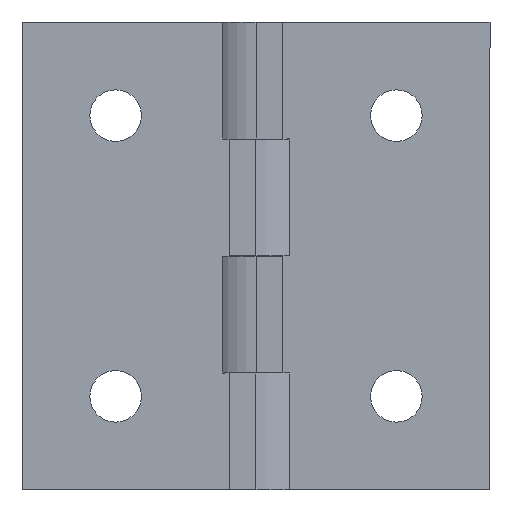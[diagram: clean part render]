
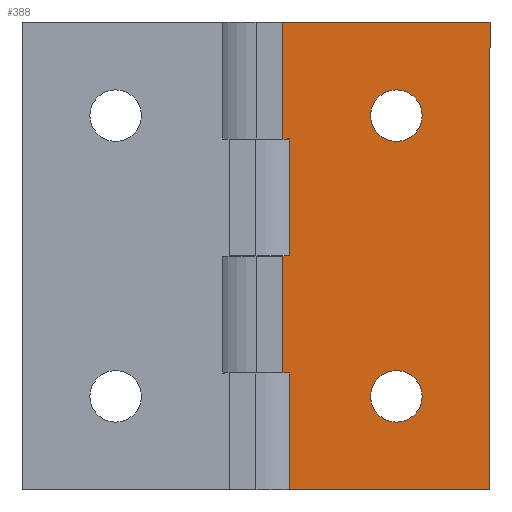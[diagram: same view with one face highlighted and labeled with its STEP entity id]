
A CAD part, front view. The second image highlights one B-rep face of the part: STEP entity #388.
In plain terms, the highlighted planar face has unit normal (0, -1, 0).
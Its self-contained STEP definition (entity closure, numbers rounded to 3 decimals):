
#13 = ORIENTED_EDGE ( 'NONE', *, *, #45, .T. ) ;
#16 = EDGE_CURVE ( 'NONE', #495, #1182, #1065, .T. ) ;
#20 = CIRCLE ( 'NONE', #837, 2.75 ) ;
#22 = EDGE_CURVE ( 'NONE', #153, #845, #117, .T. ) ;
#29 = ORIENTED_EDGE ( 'NONE', *, *, #22, .T. ) ;
#35 = CARTESIAN_POINT ( 'NONE',  ( 25., -6.5, 25. ) ) ;
#39 = DIRECTION ( 'NONE',  ( 0., 1., 0. ) ) ;
#40 = EDGE_CURVE ( 'NONE', #447, #721, #294, .T. ) ;
#45 = EDGE_CURVE ( 'NONE', #1182, #1223, #616, .T. ) ;
#46 = ORIENTED_EDGE ( 'NONE', *, *, #1097, .F. ) ;
#48 = DIRECTION ( 'NONE',  ( 0., 0., 1. ) ) ;
#62 = EDGE_CURVE ( 'NONE', #721, #447, #1102, .T. ) ;
#80 = VECTOR ( 'NONE', #1268, 1000. ) ;
#82 = EDGE_CURVE ( 'NONE', #600, #470, #179, .T. ) ;
#95 = ORIENTED_EDGE ( 'NONE', *, *, #40, .T. ) ;
#105 = DIRECTION ( 'NONE',  ( 1., 0., 0. ) ) ;
#117 = LINE ( 'NONE', #870, #80 ) ;
#151 = EDGE_CURVE ( 'NONE', #810, #153, #848, .T. ) ;
#153 = VERTEX_POINT ( 'NONE', #196 ) ;
#156 = DIRECTION ( 'NONE',  ( 0., 0., 1. ) ) ;
#157 = LINE ( 'NONE', #374, #1057 ) ;
#179 = LINE ( 'NONE', #1073, #1033 ) ;
#195 = DIRECTION ( 'NONE',  ( 0., 1., 0. ) ) ;
#196 = CARTESIAN_POINT ( 'NONE',  ( 3.56, -6.5, -25. ) ) ;
#237 = EDGE_CURVE ( 'NONE', #495, #385, #348, .T. ) ;
#248 = ORIENTED_EDGE ( 'NONE', *, *, #151, .T. ) ;
#259 = ORIENTED_EDGE ( 'NONE', *, *, #62, .T. ) ;
#267 = DIRECTION ( 'NONE',  ( 0., 1., 0. ) ) ;
#273 = CIRCLE ( 'NONE', #570, 2.75 ) ;
#276 = FACE_OUTER_BOUND ( 'NONE', #393, .T. ) ;
#281 = CARTESIAN_POINT ( 'NONE',  ( 3.56, -6.5, 0. ) ) ;
#284 = CARTESIAN_POINT ( 'NONE',  ( 2.88, -6.5, 12.5 ) ) ;
#294 = CIRCLE ( 'NONE', #395, 2.75 ) ;
#309 = AXIS2_PLACEMENT_3D ( 'NONE', #413, #39, #817 ) ;
#311 = ORIENTED_EDGE ( 'NONE', *, *, #891, .F. ) ;
#325 = CARTESIAN_POINT ( 'NONE',  ( 15., -6.5, 12.25 ) ) ;
#348 = LINE ( 'NONE', #912, #820 ) ;
#360 = DIRECTION ( 'NONE',  ( 0., 0., 1. ) ) ;
#361 = VERTEX_POINT ( 'NONE', #325 ) ;
#373 = CARTESIAN_POINT ( 'NONE',  ( 2.88, -6.5, 12.5 ) ) ;
#374 = CARTESIAN_POINT ( 'NONE',  ( 2.88, -6.5, -12.5 ) ) ;
#385 = VERTEX_POINT ( 'NONE', #35 ) ;
#388 = ADVANCED_FACE ( 'NONE', ( #1154, #922, #276 ), #709, .F. ) ;
#390 = CARTESIAN_POINT ( 'NONE',  ( 3.56, -6.5, -12.5 ) ) ;
#393 = EDGE_LOOP ( 'NONE', ( #399, #248, #29, #311, #1258, #1038, #13, #46, #1152, #930 ) ) ;
#395 = AXIS2_PLACEMENT_3D ( 'NONE', #683, #195, #360 ) ;
#399 = ORIENTED_EDGE ( 'NONE', *, *, #792, .T. ) ;
#404 = VERTEX_POINT ( 'NONE', #917 ) ;
#413 = CARTESIAN_POINT ( 'NONE',  ( 2.88, -6.5, 25. ) ) ;
#445 = CARTESIAN_POINT ( 'NONE',  ( 15., -6.5, -12.25 ) ) ;
#447 = VERTEX_POINT ( 'NONE', #1124 ) ;
#448 = EDGE_CURVE ( 'NONE', #361, #404, #20, .T. ) ;
#459 = DIRECTION ( 'NONE',  ( 0., 0., 1. ) ) ;
#460 = AXIS2_PLACEMENT_3D ( 'NONE', #1192, #267, #1185 ) ;
#470 = VERTEX_POINT ( 'NONE', #1034 ) ;
#474 = DIRECTION ( 'NONE',  ( 1., 0., 0. ) ) ;
#495 = VERTEX_POINT ( 'NONE', #942 ) ;
#499 = EDGE_CURVE ( 'NONE', #600, #1225, #1296, .T. ) ;
#535 = EDGE_CURVE ( 'NONE', #404, #361, #273, .T. ) ;
#537 = CARTESIAN_POINT ( 'NONE',  ( 2.88, -6.5, 0. ) ) ;
#551 = VECTOR ( 'NONE', #474, 1000. ) ;
#567 = EDGE_LOOP ( 'NONE', ( #1055, #956 ) ) ;
#570 = AXIS2_PLACEMENT_3D ( 'NONE', #936, #829, #156 ) ;
#595 = DIRECTION ( 'NONE',  ( 1., 0., 0. ) ) ;
#600 = VERTEX_POINT ( 'NONE', #1267 ) ;
#603 = DIRECTION ( 'NONE',  ( 0., 0., -1. ) ) ;
#616 = LINE ( 'NONE', #284, #551 ) ;
#626 = DIRECTION ( 'NONE',  ( 0., 1., 0. ) ) ;
#679 = CARTESIAN_POINT ( 'NONE',  ( 3.56, -6.5, 0. ) ) ;
#683 = CARTESIAN_POINT ( 'NONE',  ( 15., -6.5, -15. ) ) ;
#694 = LINE ( 'NONE', #679, #1042 ) ;
#709 = PLANE ( 'NONE',  #309 ) ;
#721 = VERTEX_POINT ( 'NONE', #445 ) ;
#732 = CARTESIAN_POINT ( 'NONE',  ( 15., -6.5, 15. ) ) ;
#737 = VECTOR ( 'NONE', #603, 1000. ) ;
#771 = EDGE_LOOP ( 'NONE', ( #259, #95 ) ) ;
#792 = EDGE_CURVE ( 'NONE', #470, #810, #157, .T. ) ;
#810 = VERTEX_POINT ( 'NONE', #896 ) ;
#817 = DIRECTION ( 'NONE',  ( 0., 0., 1. ) ) ;
#820 = VECTOR ( 'NONE', #595, 1000. ) ;
#829 = DIRECTION ( 'NONE',  ( 0., 1., 0. ) ) ;
#837 = AXIS2_PLACEMENT_3D ( 'NONE', #732, #626, #48 ) ;
#845 = VERTEX_POINT ( 'NONE', #1202 ) ;
#848 = LINE ( 'NONE', #390, #737 ) ;
#870 = CARTESIAN_POINT ( 'NONE',  ( 2.88, -6.5, -25. ) ) ;
#891 = EDGE_CURVE ( 'NONE', #385, #845, #1221, .T. ) ;
#896 = CARTESIAN_POINT ( 'NONE',  ( 3.56, -6.5, -12.5 ) ) ;
#912 = CARTESIAN_POINT ( 'NONE',  ( 2.88, -6.5, 25. ) ) ;
#917 = CARTESIAN_POINT ( 'NONE',  ( 15., -6.5, 17.75 ) ) ;
#922 = FACE_BOUND ( 'NONE', #567, .T. ) ;
#930 = ORIENTED_EDGE ( 'NONE', *, *, #82, .T. ) ;
#936 = CARTESIAN_POINT ( 'NONE',  ( 15., -6.5, 15. ) ) ;
#942 = CARTESIAN_POINT ( 'NONE',  ( 2.88, -6.5, 25. ) ) ;
#955 = VECTOR ( 'NONE', #1050, 1000. ) ;
#956 = ORIENTED_EDGE ( 'NONE', *, *, #448, .T. ) ;
#977 = DIRECTION ( 'NONE',  ( 0., 0., -1. ) ) ;
#978 = CARTESIAN_POINT ( 'NONE',  ( 25., -6.5, 25. ) ) ;
#990 = DIRECTION ( 'NONE',  ( 0., 0., -1. ) ) ;
#1033 = VECTOR ( 'NONE', #1286, 1000. ) ;
#1034 = CARTESIAN_POINT ( 'NONE',  ( 2.88, -6.5, -12.5 ) ) ;
#1038 = ORIENTED_EDGE ( 'NONE', *, *, #16, .T. ) ;
#1042 = VECTOR ( 'NONE', #459, 1000. ) ;
#1050 = DIRECTION ( 'NONE',  ( 1., 0., 0. ) ) ;
#1055 = ORIENTED_EDGE ( 'NONE', *, *, #535, .T. ) ;
#1057 = VECTOR ( 'NONE', #105, 1000. ) ;
#1065 = LINE ( 'NONE', #1272, #1297 ) ;
#1073 = CARTESIAN_POINT ( 'NONE',  ( 2.88, -6.5, 25. ) ) ;
#1091 = CARTESIAN_POINT ( 'NONE',  ( 3.56, -6.5, 12.5 ) ) ;
#1097 = EDGE_CURVE ( 'NONE', #1225, #1223, #694, .T. ) ;
#1102 = CIRCLE ( 'NONE', #460, 2.75 ) ;
#1124 = CARTESIAN_POINT ( 'NONE',  ( 15., -6.5, -17.75 ) ) ;
#1152 = ORIENTED_EDGE ( 'NONE', *, *, #499, .F. ) ;
#1154 = FACE_BOUND ( 'NONE', #771, .T. ) ;
#1182 = VERTEX_POINT ( 'NONE', #373 ) ;
#1185 = DIRECTION ( 'NONE',  ( 0., 0., 1. ) ) ;
#1186 = VECTOR ( 'NONE', #990, 1000. ) ;
#1192 = CARTESIAN_POINT ( 'NONE',  ( 15., -6.5, -15. ) ) ;
#1202 = CARTESIAN_POINT ( 'NONE',  ( 25., -6.5, -25. ) ) ;
#1221 = LINE ( 'NONE', #978, #1186 ) ;
#1223 = VERTEX_POINT ( 'NONE', #1091 ) ;
#1225 = VERTEX_POINT ( 'NONE', #281 ) ;
#1258 = ORIENTED_EDGE ( 'NONE', *, *, #237, .F. ) ;
#1267 = CARTESIAN_POINT ( 'NONE',  ( 2.88, -6.5, 0. ) ) ;
#1268 = DIRECTION ( 'NONE',  ( 1., 0., 0. ) ) ;
#1272 = CARTESIAN_POINT ( 'NONE',  ( 2.88, -6.5, 25. ) ) ;
#1286 = DIRECTION ( 'NONE',  ( 0., 0., -1. ) ) ;
#1296 = LINE ( 'NONE', #537, #955 ) ;
#1297 = VECTOR ( 'NONE', #977, 1000. ) ;
